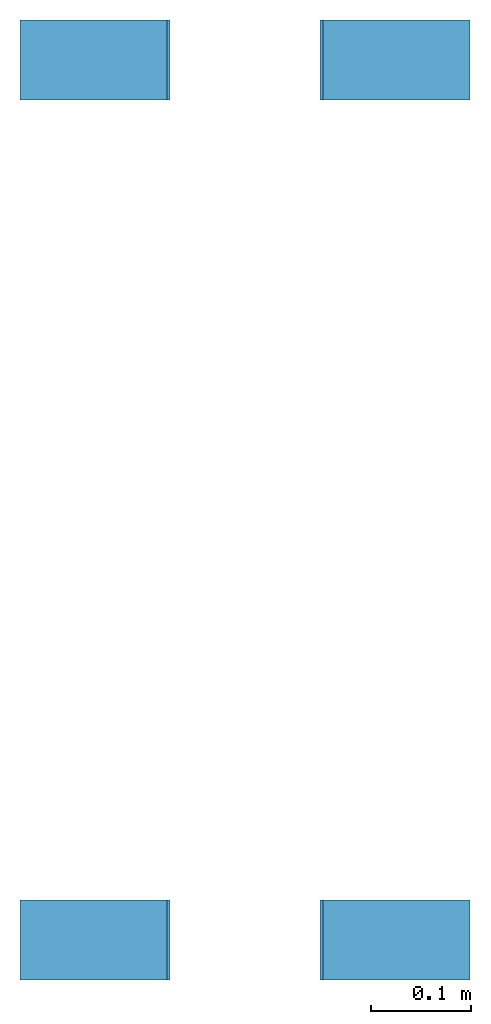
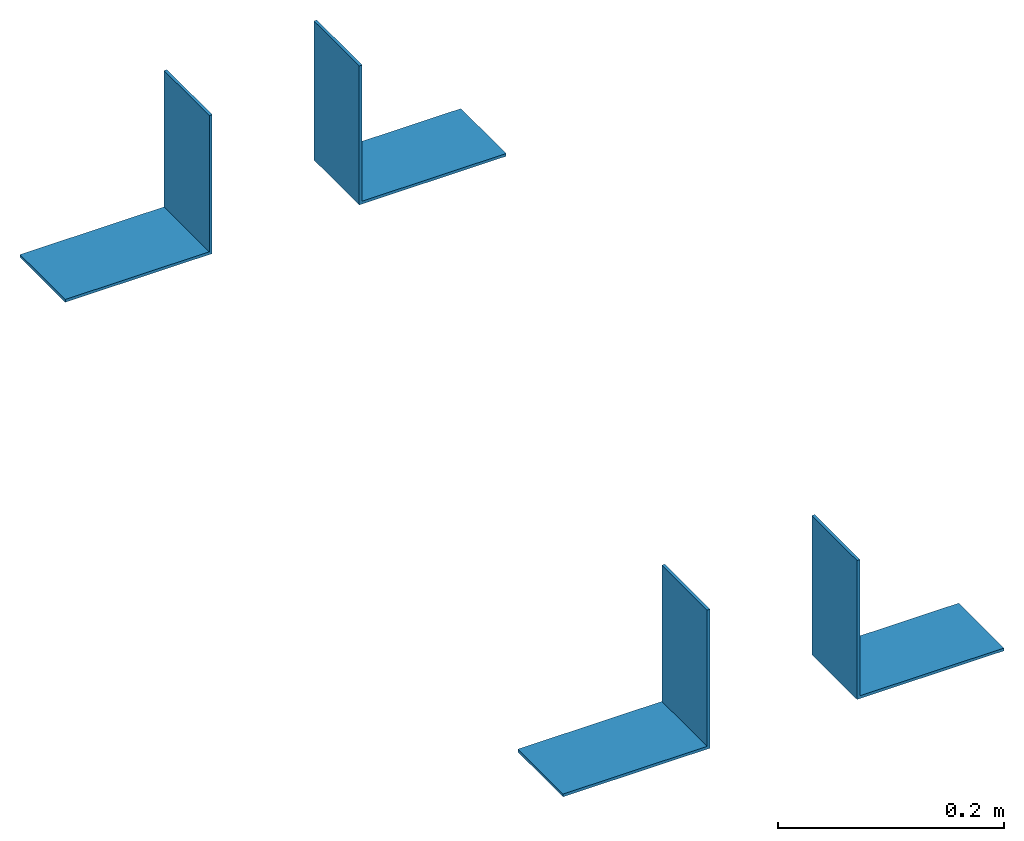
# One storey: 4 beams.
"""IFC4 building model written with IfcOpenShell, lengths in centimetres."""

from ifc_helpers import new_model, entity, si_unit, converted_unit, derived_unit, direction, frame, origin, place, context, subcontext, project, spatial, indexed_curve, outline, extrude, source, transform, mapped, material, type_object, type_shapes, element, save


model = new_model("IFC4")

# Units and contexts
model_context = context("Model", 3, precision=0.001, world=origin(), true_north=direction((6.123031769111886e-17, 1.0)))
body_context = subcontext(model_context, "Body", "Model", "MODEL_VIEW")
ifc_project = project(units=[si_unit("LENGTHUNIT", "METRE", prefix="CENTI"), si_unit("AREAUNIT", "SQUARE_METRE"), si_unit("VOLUMEUNIT", "CUBIC_METRE"), converted_unit("PLANEANGLEUNIT", "DEGREE", entity("IfcPlaneAngleMeasure", 0.017453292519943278), si_unit("PLANEANGLEUNIT", "RADIAN"), dimensions=[0, 0, 0, 0, 0, 0, 0]), si_unit("MASSUNIT", "GRAM", prefix="KILO"), derived_unit("MASSDENSITYUNIT", [(si_unit("MASSUNIT", "GRAM", prefix="KILO"), 1), (si_unit("LENGTHUNIT", "METRE"), -3)]), derived_unit("IONCONCENTRATIONUNIT", [(si_unit("MASSUNIT", "GRAM", prefix="KILO"), 1), (si_unit("LENGTHUNIT", "METRE"), -3)]), derived_unit("MOMENTOFINERTIAUNIT", [(si_unit("LENGTHUNIT", "METRE"), 4)]), si_unit("TIMEUNIT", "SECOND"), si_unit("FREQUENCYUNIT", "HERTZ"), si_unit("THERMODYNAMICTEMPERATUREUNIT", "DEGREE_CELSIUS"), derived_unit("THERMALTRANSMITTANCEUNIT", [(si_unit("MASSUNIT", "GRAM", prefix="KILO"), 1), (si_unit("THERMODYNAMICTEMPERATUREUNIT", "KELVIN"), -1), (si_unit("TIMEUNIT", "SECOND"), -3)]), derived_unit("THERMALCONDUCTANCEUNIT", [(si_unit("MASSUNIT", "GRAM", prefix="KILO"), 1), (si_unit("THERMODYNAMICTEMPERATUREUNIT", "KELVIN"), -1), (si_unit("TIMEUNIT", "SECOND"), -3), (si_unit("LENGTHUNIT", "METRE"), 1)]), derived_unit("VOLUMETRICFLOWRATEUNIT", [(si_unit("LENGTHUNIT", "METRE", prefix="DECI"), 3), (si_unit("TIMEUNIT", "SECOND"), -1)]), derived_unit("MASSFLOWRATEUNIT", [(si_unit("MASSUNIT", "GRAM", prefix="KILO"), 1), (si_unit("TIMEUNIT", "SECOND"), -1)]), derived_unit("ROTATIONALFREQUENCYUNIT", [(si_unit("TIMEUNIT", "SECOND"), -1)]), si_unit("ELECTRICCURRENTUNIT", "AMPERE"), si_unit("ELECTRICVOLTAGEUNIT", "VOLT"), si_unit("POWERUNIT", "WATT"), si_unit("FORCEUNIT", "NEWTON", prefix="KILO"), si_unit("ILLUMINANCEUNIT", "LUX"), si_unit("LUMINOUSFLUXUNIT", "LUMEN"), si_unit("LUMINOUSINTENSITYUNIT", "CANDELA"), si_unit("ENERGYUNIT", "JOULE"), derived_unit("USERDEFINED", [(si_unit("MASSUNIT", "GRAM", prefix="KILO"), -1), (si_unit("LENGTHUNIT", "METRE"), -2), (si_unit("TIMEUNIT", "SECOND"), 3), (si_unit("LUMINOUSFLUXUNIT", "LUMEN"), 1)]), derived_unit("USERDEFINED", [(si_unit("MASSUNIT", "GRAM", prefix="KILO"), 1), (si_unit("TIMEUNIT", "SECOND"), -3), (si_unit("LENGTHUNIT", "METRE"), 3), (si_unit("ELECTRICCURRENTUNIT", "AMPERE"), -2)]), derived_unit("SOUNDPOWERUNIT", [(si_unit("MASSUNIT", "GRAM", prefix="KILO"), 1), (si_unit("TIMEUNIT", "SECOND"), -3), (si_unit("LENGTHUNIT", "METRE"), 2)]), derived_unit("SOUNDPRESSUREUNIT", [(si_unit("MASSUNIT", "GRAM", prefix="KILO"), 1), (si_unit("LENGTHUNIT", "METRE"), -1), (si_unit("TIMEUNIT", "SECOND"), -2)]), derived_unit("LINEARVELOCITYUNIT", [(si_unit("LENGTHUNIT", "METRE"), 1), (si_unit("TIMEUNIT", "SECOND"), -1)]), si_unit("PRESSUREUNIT", "PASCAL"), derived_unit("USERDEFINED", [(si_unit("MASSUNIT", "GRAM", prefix="KILO"), 1), (si_unit("LENGTHUNIT", "METRE"), -2), (si_unit("TIMEUNIT", "SECOND"), -2)]), derived_unit("LINEARFORCEUNIT", [(si_unit("MASSUNIT", "GRAM", prefix="KILO"), 1), (si_unit("TIMEUNIT", "SECOND"), -2)]), derived_unit("PLANARFORCEUNIT", [(si_unit("MASSUNIT", "GRAM", prefix="KILO"), 1), (si_unit("LENGTHUNIT", "METRE"), -1), (si_unit("TIMEUNIT", "SECOND"), -2)]), derived_unit("SPECIFICHEATCAPACITYUNIT", [(si_unit("THERMODYNAMICTEMPERATUREUNIT", "KELVIN"), -1), (si_unit("LENGTHUNIT", "METRE"), 2), (si_unit("TIMEUNIT", "SECOND"), -2)]), derived_unit("HEATFLUXDENSITYUNIT", [(si_unit("MASSUNIT", "GRAM", prefix="KILO"), 1), (si_unit("TIMEUNIT", "SECOND"), -3)]), derived_unit("HEATINGVALUEUNIT", [(si_unit("LENGTHUNIT", "METRE"), 2), (si_unit("TIMEUNIT", "SECOND"), -2)]), derived_unit("VAPORPERMEABILITYUNIT", [(si_unit("LENGTHUNIT", "METRE"), -1), (si_unit("TIMEUNIT", "SECOND"), 1)]), derived_unit("DYNAMICVISCOSITYUNIT", [(si_unit("MASSUNIT", "GRAM", prefix="KILO"), 1), (si_unit("TIMEUNIT", "SECOND"), -1), (si_unit("LENGTHUNIT", "METRE"), -1)]), derived_unit("THERMALEXPANSIONCOEFFICIENTUNIT", [(si_unit("THERMODYNAMICTEMPERATUREUNIT", "KELVIN"), -1)]), derived_unit("MODULUSOFELASTICITYUNIT", [(si_unit("MASSUNIT", "GRAM", prefix="KILO"), 1), (si_unit("LENGTHUNIT", "METRE"), -1), (si_unit("TIMEUNIT", "SECOND"), -2)]), derived_unit("ISOTHERMALMOISTURECAPACITYUNIT", [(si_unit("MASSUNIT", "GRAM", prefix="KILO"), -1), (si_unit("LENGTHUNIT", "METRE"), 3)]), derived_unit("MOISTUREDIFFUSIVITYUNIT", [(si_unit("TIMEUNIT", "SECOND"), -1), (si_unit("LENGTHUNIT", "METRE"), 2)]), derived_unit("AREADENSITYUNIT", [(si_unit("MASSUNIT", "GRAM", prefix="KILO"), 1), (si_unit("LENGTHUNIT", "METRE"), 2)]), derived_unit("MASSPERLENGTHUNIT", [(si_unit("MASSUNIT", "GRAM", prefix="KILO"), 1), (si_unit("LENGTHUNIT", "METRE"), -1)]), derived_unit("THERMALRESISTANCEUNIT", [(si_unit("MASSUNIT", "GRAM", prefix="KILO"), -1), (si_unit("TIMEUNIT", "SECOND"), 3), (si_unit("THERMODYNAMICTEMPERATUREUNIT", "KELVIN"), 1)]), derived_unit("ACCELERATIONUNIT", [(si_unit("LENGTHUNIT", "METRE"), 1), (si_unit("TIMEUNIT", "SECOND"), -2)]), derived_unit("ANGULARVELOCITYUNIT", [(si_unit("TIMEUNIT", "SECOND"), -1), (si_unit("PLANEANGLEUNIT", "RADIAN"), 1)]), derived_unit("LINEARSTIFFNESSUNIT", [(si_unit("MASSUNIT", "GRAM", prefix="KILO"), 1), (si_unit("TIMEUNIT", "SECOND"), -2)]), derived_unit("WARPINGCONSTANTUNIT", [(si_unit("LENGTHUNIT", "METRE"), 6)]), derived_unit("LINEARMOMENTUNIT", [(si_unit("MASSUNIT", "GRAM", prefix="KILO"), 1), (si_unit("LENGTHUNIT", "METRE"), 1), (si_unit("TIMEUNIT", "SECOND"), -2)]), derived_unit("TORQUEUNIT", [(si_unit("MASSUNIT", "GRAM", prefix="KILO"), 1), (si_unit("LENGTHUNIT", "METRE"), 2), (si_unit("TIMEUNIT", "SECOND"), -2)])], contexts=[model_context])

# Site, building, storey
site_placement = place(None, origin())
site = spatial("IfcSite", under=ifc_project, at=site_placement, Name="Default", CompositionType="ELEMENT")
building_placement = place(site_placement, origin())
building = spatial("IfcBuilding", under=site, at=building_placement, CompositionType="ELEMENT")
storey_placement = place(building_placement, frame((0.0, 0.0, 558.0)))
storey = spatial("IfcBuildingStorey", under=building, at=storey_placement, Name="L02__ABOVE Slab", CompositionType="ELEMENT", Elevation=557.9999999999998)

# Beams
ifc_material = material(Name="Metal - Steel - 345 MPa", Category="Unassigned")
beam_type_1 = type_object("IfcBeamType", Name="Structural Framing : Light Gauge-Angles : L150 x 150", PredefinedType="BEAM", material=ifc_material)
shared_shape_1 = source(origin(), body_context, "Body", "SweptSolid", [
    extrude(outline(indexed_curve([(-5.1, -9.900000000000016), (-4.8, -9.900000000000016), (-4.8, 4.800000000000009), (9.9, 4.800000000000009), (9.9, 5.100000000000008), (-5.1, 5.100000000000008), (-5.1, -9.900000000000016)], self_intersect=False)), frame((-4.0, -5.100000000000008, -5.1), z_axis=(1.0, 0.0, 0.0), x_axis=(0.0, 0.0, -1.0)), (0.0, 0.0, 1.0), 7.999999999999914),
])
type_shapes(beam_type_1, [shared_shape_1])
for number, where, z_axis, x_axis, name in (
    (1, (1433.1494566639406, 1251.371873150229, -562.5), (-1.0, 0.0, 0.0), (0.0, 1.0, 0.0), "Structural Framing : Light Gauge-Angles : L150 x 150"),
    (2, (1433.1494566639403, 1163.3718731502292, -562.5), (-1.0, 0.0, 0.0), (0.0, 1.0, 0.0), "Structural Framing : Light Gauge-Angles : L150 x 150"),
):
    element("IfcBeam", number, at=place(storey_placement, frame(where, z_axis=z_axis, x_axis=x_axis)), inside=storey, type_object=beam_type_1, material=ifc_material, Name=name, ObjectType="Light Gauge-Angles:L150 x 150", PredefinedType="BEAM", context=body_context, shape_type="MappedRepresentation", body=[
        mapped(shared_shape_1, transform((0.0, 0.0, 0.0), scale=1.0)),
    ])
beam_type_2 = type_object("IfcBeamType", Name="Structural Framing : Light Gauge-Angles : L150 x 150", PredefinedType="BEAM", material=ifc_material)
shared_shape_2 = source(origin(), body_context, "Body", "SweptSolid", [
    extrude(outline(indexed_curve([(-5.1, -5.100000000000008), (9.9, -5.100000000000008), (9.9, -4.800000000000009), (-4.8, -4.800000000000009), (-4.8, 9.900000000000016), (-5.1, 9.900000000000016), (-5.1, -5.100000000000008)], self_intersect=False)), frame((-4.0, 5.100000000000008, -5.1), z_axis=(1.0, 0.0, 0.0), x_axis=(0.0, 0.0, -1.0)), (0.0, 0.0, 1.0), 7.999999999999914),
])
type_shapes(beam_type_2, [shared_shape_2])
for number, where, z_axis, x_axis, name in (
    (3, (1418.1494566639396, 1251.371873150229, -562.5), (1.0, 0.0, 0.0), (0.0, 1.0, 0.0), "Structural Framing : Light Gauge-Angles : L150 x 150"),
    (4, (1418.1494566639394, 1163.3718731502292, -562.5), (1.0, 0.0, 0.0), (0.0, 1.0, 0.0), "Structural Framing : Light Gauge-Angles : L150 x 150"),
):
    element("IfcBeam", number, at=place(storey_placement, frame(where, z_axis=z_axis, x_axis=x_axis)), inside=storey, type_object=beam_type_2, material=ifc_material, Name=name, ObjectType="Light Gauge-Angles:L150 x 150", PredefinedType="BEAM", context=body_context, shape_type="MappedRepresentation", body=[
        mapped(shared_shape_2, transform((0.0, 0.0, 0.0), scale=1.0)),
    ])

save(model, "model.ifc")
